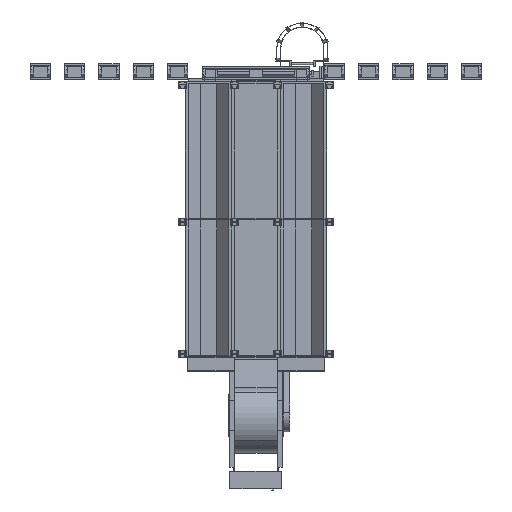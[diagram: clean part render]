
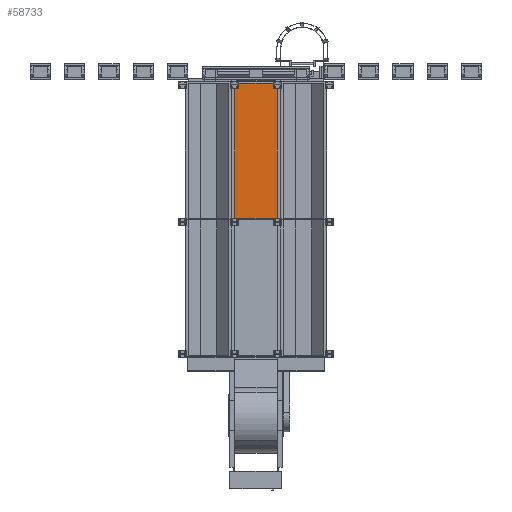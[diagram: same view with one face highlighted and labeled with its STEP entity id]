
A CAD part, front view. The second image highlights one B-rep face of the part: STEP entity #58733.
In plain terms, the highlighted planar face has unit normal (0, -1, 0) as drawn and (0, 0, -1) by its records, which use the part's own axes.
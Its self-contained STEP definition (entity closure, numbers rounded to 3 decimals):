
#3127=FACE_OUTER_BOUND('',#6141,.T.);
#6141=EDGE_LOOP('',(#39210,#39211,#39212,#39213));
#9842=LINE('',#83298,#17128);
#9845=LINE('',#83304,#17131);
#9911=LINE('',#83442,#17197);
#9912=LINE('',#83443,#17198);
#17128=VECTOR('',#66992,0.394);
#17131=VECTOR('',#66997,0.394);
#17197=VECTOR('',#67087,0.394);
#17198=VECTOR('',#67088,0.394);
#24343=VERTEX_POINT('',#83291);
#24346=VERTEX_POINT('',#83296);
#24347=VERTEX_POINT('',#83300);
#24408=VERTEX_POINT('',#83441);
#30159=EDGE_CURVE('',#24346,#24343,#9842,.T.);
#30162=EDGE_CURVE('',#24343,#24347,#9845,.T.);
#30228=EDGE_CURVE('',#24408,#24347,#9911,.T.);
#30229=EDGE_CURVE('',#24408,#24346,#9912,.T.);
#39210=ORIENTED_EDGE('',*,*,#30228,.T.);
#39211=ORIENTED_EDGE('',*,*,#30162,.F.);
#39212=ORIENTED_EDGE('',*,*,#30159,.F.);
#39213=ORIENTED_EDGE('',*,*,#30229,.F.);
#56351=PLANE('',#62231);
#58733=ADVANCED_FACE('',(#3127),#56351,.F.);
#62231=AXIS2_PLACEMENT_3D('',#83440,#67085,#67086);
#66992=DIRECTION('',(0.,-1.,0.));
#66997=DIRECTION('',(1.,0.,0.));
#67085=DIRECTION('center_axis',(0.,0.,1.));
#67086=DIRECTION('ref_axis',(1.,0.,0.));
#67087=DIRECTION('',(0.,-1.,0.));
#67088=DIRECTION('',(-1.,0.,0.));
#83291=CARTESIAN_POINT('',(-288.,-47.25,0.));
#83296=CARTESIAN_POINT('',(-288.,47.25,0.));
#83298=CARTESIAN_POINT('',(-288.,47.25,0.));
#83300=CARTESIAN_POINT('',(-192.004,-47.25,0.));
#83304=CARTESIAN_POINT('',(-288.,-47.25,0.));
#83440=CARTESIAN_POINT('Origin',(-144.,0.,0.));
#83441=CARTESIAN_POINT('',(-192.004,47.25,0.));
#83442=CARTESIAN_POINT('',(-192.004,2.638,0.));
#83443=CARTESIAN_POINT('',(0.,47.25,0.));
